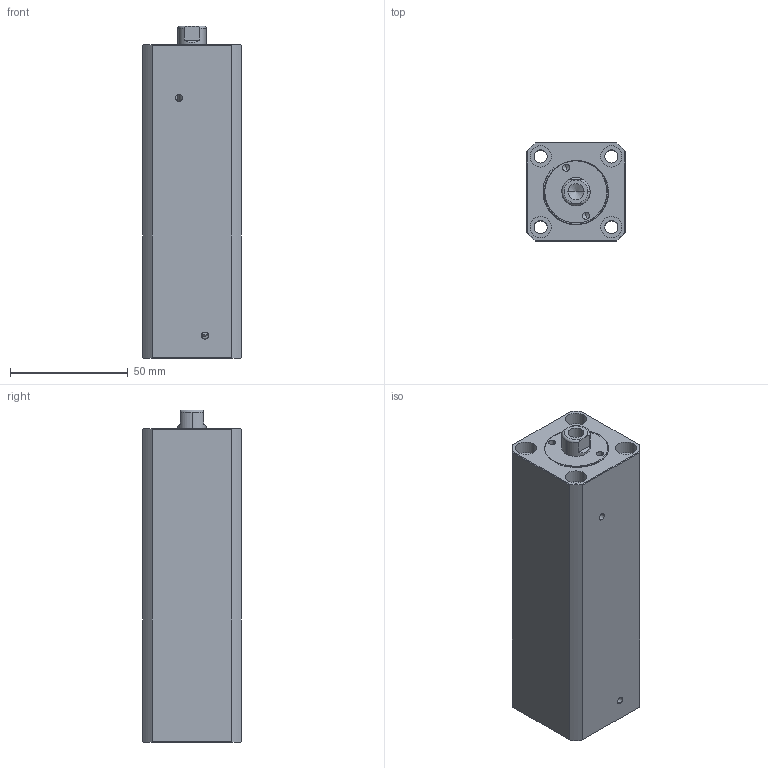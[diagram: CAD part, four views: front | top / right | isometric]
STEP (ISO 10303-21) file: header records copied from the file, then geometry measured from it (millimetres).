
FILE_DESCRIPTION (( 'STEP AP214' ), '1' );
FILE_NAME ('chtb-sdmb20x90n_asm.STEP', '2018-05-18T08:30:40', ( 'Windows' ), ( 'Microsoft' ), 'SwSTEP 2.0', 'SolidWorks 2015', '' );
FILE_SCHEMA (( 'AUTOMOTIVE_DESIGN' ));
Length unit declared in the file: millimetre
Products named in the file (4): QG_3; CHTB-SDMB20X90NHSG; CHTB-SDMB20X90NBT; chtb-sdmb20x90n_asm
Assembly tree (3 placements, depth 2):
  chtb-sdmb20x90n_asm
    CHTB-SDMB20X90NBT
    CHTB-SDMB20X90NHSG
    QG_3
Bounding box: 42 x 42 x 141 mm (x, y, z)
Volume: 195716.5 mm3; surface area: 54699.2 mm2
Topology: 3 solids, 3 shells, 201 faces, 535 edges, 354 vertices
Faces by surface type: cylinder 106, plane 43, torus 25, bspline 21, cone 6
Entity records: 11558 total; most frequent: CARTESIAN_POINT 6663, ORIENTED_EDGE 1058, DIRECTION 922, EDGE_CURVE 529, AXIS2_PLACEMENT_3D 388, VERTEX_POINT 354, EDGE_LOOP 239, CIRCLE 202
